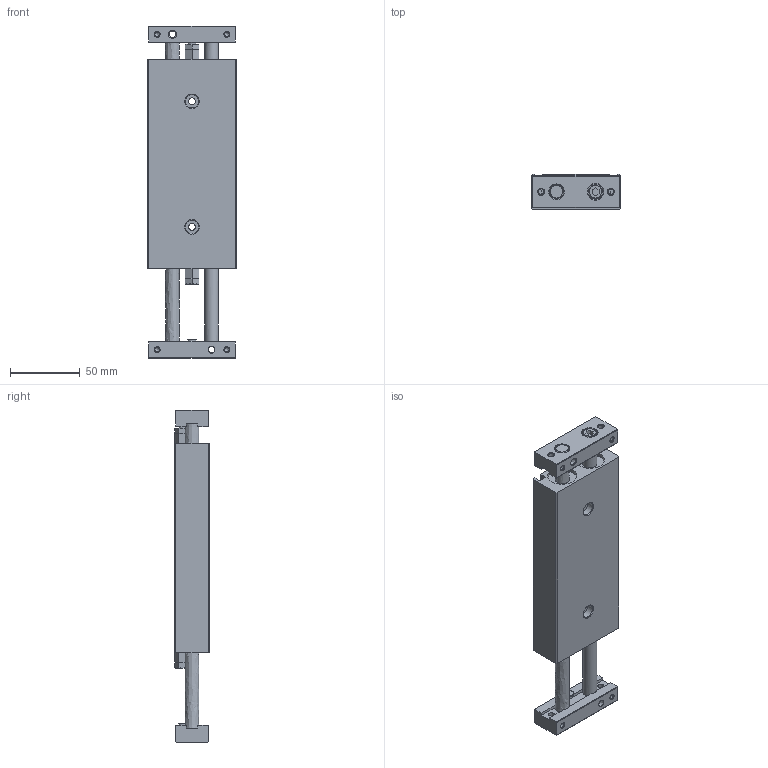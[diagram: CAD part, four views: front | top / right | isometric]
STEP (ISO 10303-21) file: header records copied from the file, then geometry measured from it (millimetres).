
FILE_DESCRIPTION((''),'2;1');
FILE_NAME('I:\3D電子目錄\氣缸\STX\STX\STX20\STX20x40.stp','2007-10-02T08:31:18',('Administrator'),(''),'Autodesk Inventor 11','Autodesk Inventor 11','');
FILE_SCHEMA(('AUTOMOTIVE_DESIGN { 1 0 10303 214 1 1 1 1 }'));
Length unit declared in the file: millimetre
Products named in the file (1): STX20
Bounding box: 64 x 25 x 238 mm (x, y, z)
Volume: 265849.2 mm3; surface area: 53760.9 mm2
Topology: 1 solids, 1 shells, 277 faces, 685 edges, 425 vertices
Faces by surface type: plane 133, cone 75, bspline 42, cylinder 23, torus 4
Full cylindrical faces by diameter (mm): 3.242 x4, 6 x2, 9.5 x2, 10 x6, 10.2 x2, 11 x1, 11.2 x1, 21 x2, 22.2 x2
Entity records: 7915 total; most frequent: CARTESIAN_POINT 2261, DIRECTION 1108, ORIENTED_EDGE 1106, EDGE_CURVE 553, AXIS2_PLACEMENT_3D 424, EDGE_LOOP 408, VERTEX_POINT 381, FACE_OUTER_BOUND 276
